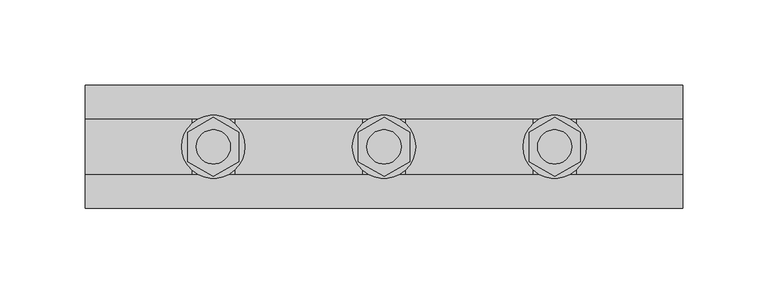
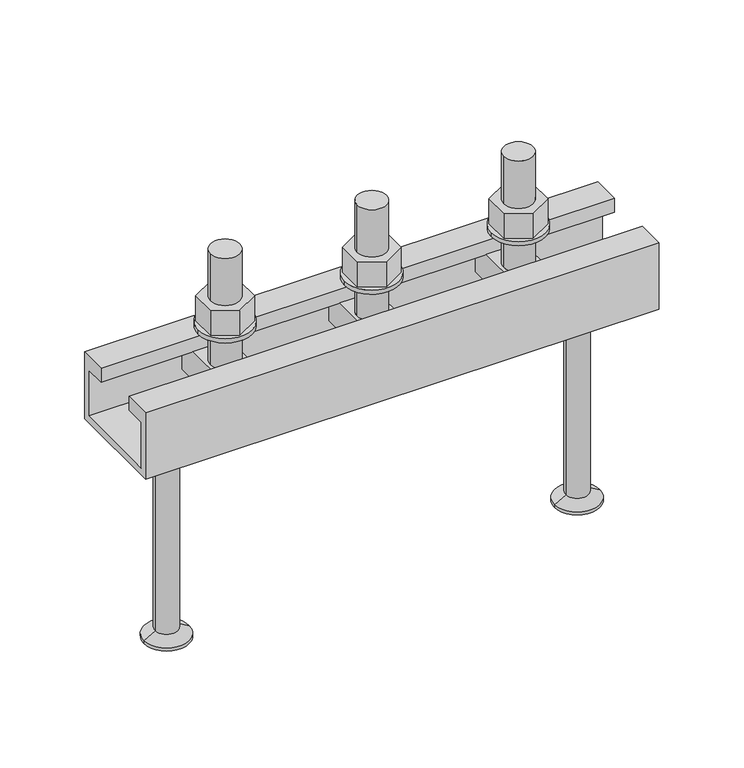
"""IFC4 building model written with IfcOpenShell, lengths in millimetres: fastener geometry, JTA-W JORDAHL® AnchorChannels : JTA-W L=350 mm."""

from ifc_helpers import new_model, si_unit, point, frame, frame_2d, origin, place, context, project, spatial, polyline, circle_curve, trimmed, segment, composite_curve, outline, extrude, source, transform, mapped, element, save
from ifc_brep_helpers import plane_surface, cylinder_surface, revolved_surface, advanced_brep


def fastener_28f62583(model_context):
    return source(origin(), model_context, "Body", "SolidModel", [
        extrude(outline(polyline([(175.0, 17.3205081), (190.0, 8.660254), (190.0, -8.660254), (175.0, -17.3205081), (160.0, -8.660254), (160.0, 8.660254), (175.0, 17.3205081)]), holes=[composite_curve([segment(trimmed(circle_curve(frame_2d((175.0, 0.0)), 10.0), [point((165.0, 0.0))], [point((185.0, 0.0))], True, "CARTESIAN"), True, "CONTINUOUS"), segment(trimmed(circle_curve(frame_2d((175.0, 0.0)), 10.0), [point((185.0, 0.0))], [point((165.0, 0.0))], True, "CARTESIAN"), True, "CONTINUOUS")], self_intersect=False)]), frame((0.0, 0.0, 18.0), z_axis=(0.0, 0.0, 1.0), x_axis=(1.0, 0.0, 0.0)), (0.0, 0.0, 1.0), 18.0),
        extrude(outline(composite_curve([segment(trimmed(circle_curve(frame_2d((175.0, 0.0)), 18.5), [point((156.5, 0.0))], [point((193.5, 0.0))], False, "CARTESIAN"), True, "CONTINUOUS"), segment(trimmed(circle_curve(frame_2d((175.0, 0.0)), 18.5), [point((193.5, 0.0))], [point((156.5, 0.0))], False, "CARTESIAN"), True, "CONTINUOUS")], self_intersect=False), holes=[composite_curve([segment(trimmed(circle_curve(frame_2d((175.0, 0.0)), 10.5), [point((164.5, 0.0))], [point((185.5, 0.0))], True, "CARTESIAN"), True, "CONTINUOUS"), segment(trimmed(circle_curve(frame_2d((175.0, 0.0)), 10.5), [point((185.5, 0.0))], [point((164.5, 0.0))], True, "CARTESIAN"), True, "CONTINUOUS")], self_intersect=False)]), frame((0.0, 0.0, 15.0), z_axis=(0.0, 0.0, 1.0), x_axis=(1.0, 0.0, 0.0)), (0.0, 0.0, 1.0), 3.0),
        advanced_brep(
        [(187.5, 29.0, -10.0), (187.5, -29.0, -10.0), (187.5, -29.0, -30.0), (187.5, 29.0, -30.0), (162.5, 29.0, -10.0), (162.5, 29.0, -30.0), (162.5, -29.0, -30.0), (162.5, -29.0, -10.0), (185.0, 0.0, -10.0), (165.0, 0.0, -10.0), (165.0, 0.0, 70.0), (185.0, 0.0, 70.0)],
        [
            (0, 1),
            (1, 2),
            (2, 3),
            (3, 0),
            (4, 5),
            (5, 6),
            (6, 7),
            (7, 4),
            (0, 4),
            (7, 1),
            (8, 9, circle_curve(frame((175.0, 0.0, -10.0), z_axis=(0.0, 0.0, -1.0), x_axis=(1.0, 0.0, 0.0)), 10.0)),
            (9, 8, circle_curve(frame((175.0, 0.0, -10.0), z_axis=(0.0, 0.0, -1.0), x_axis=(1.0, 0.0, 0.0)), 10.0)),
            (6, 2),
            (5, 3),
            (10, 11, circle_curve(frame((175.0, 0.0, 70.0), z_axis=(0.0, 0.0, 1.0), x_axis=(1.0, 0.0, 0.0)), 10.0)),
            (11, 10, circle_curve(frame((175.0, 0.0, 70.0), z_axis=(0.0, 0.0, 1.0), x_axis=(1.0, 0.0, 0.0)), 10.0)),
            (10, 9),
            (8, 11),
        ],
        [
            plane_surface(frame((187.5, -29.0, -10.0), z_axis=(1.0, 0.0, 0.0), x_axis=(0.0, -1.0, 0.0))),
            plane_surface(frame((162.5, -29.0, -10.0), z_axis=(-1.0, 0.0, 0.0), x_axis=(0.0, 1.0, 0.0))),
            plane_surface(frame((187.5, 29.0, -10.0), z_axis=(0.0, 0.0, 1.0), x_axis=(-1.0, 0.0, 0.0))),
            plane_surface(frame((187.5, -29.0, -10.0), z_axis=(0.0, -1.0, 0.0), x_axis=(-1.0, 0.0, 0.0))),
            plane_surface(frame((187.5, -29.0, -30.0), z_axis=(0.0, 0.0, -1.0), x_axis=(-1.0, 0.0, 0.0))),
            plane_surface(frame((187.5, 29.0, -30.0), z_axis=(0.0, 1.0, 0.0), x_axis=(-1.0, 0.0, 0.0))),
            plane_surface(frame((185.0, 0.0, 70.0), z_axis=(0.0, 0.0, 1.0), x_axis=(0.0, 1.0, 0.0))),
            cylinder_surface(frame((175.0, 0.0, -10.0), z_axis=(0.0, 0.0, 1.0), x_axis=(1.0, 0.0, 0.0)), 10.0),
        ],
        [
            (0, [[1, 2, 3, 4]]),
            (1, [[5, 6, 7, 8]]),
            (2, [[-1, 9, -8, 10], [11, 12]]),
            (3, [[-2, -10, -7, 13]]),
            (4, [[-3, -13, -6, 14]]),
            (5, [[-4, -14, -5, -9]]),
            (6, [[15, 16]]),
            (7, [[-15, 17, -11, 18]]),
            (7, [[-16, -18, -12, -17]]),
        ],
    ),
        extrude(outline(polyline([(275.0, 17.3205081), (290.0, 8.660254), (290.0, -8.660254), (275.0, -17.3205081), (260.0, -8.660254), (260.0, 8.660254), (275.0, 17.3205081)]), holes=[composite_curve([segment(trimmed(circle_curve(frame_2d((275.0, 0.0)), 10.0), [point((265.0, 0.0))], [point((285.0, 0.0))], True, "CARTESIAN"), True, "CONTINUOUS"), segment(trimmed(circle_curve(frame_2d((275.0, 0.0)), 10.0), [point((285.0, 0.0))], [point((265.0, 0.0))], True, "CARTESIAN"), True, "CONTINUOUS")], self_intersect=False)]), frame((0.0, 0.0, 18.0), z_axis=(0.0, 0.0, 1.0), x_axis=(1.0, 0.0, 0.0)), (0.0, 0.0, 1.0), 18.0),
        extrude(outline(composite_curve([segment(trimmed(circle_curve(frame_2d((275.0, 0.0)), 18.5), [point((256.5, 0.0))], [point((293.5, 0.0))], False, "CARTESIAN"), True, "CONTINUOUS"), segment(trimmed(circle_curve(frame_2d((275.0, 0.0)), 18.5), [point((293.5, 0.0))], [point((256.5, 0.0))], False, "CARTESIAN"), True, "CONTINUOUS")], self_intersect=False), holes=[composite_curve([segment(trimmed(circle_curve(frame_2d((275.0, 0.0)), 10.5), [point((264.5, 0.0))], [point((285.5, 0.0))], True, "CARTESIAN"), True, "CONTINUOUS"), segment(trimmed(circle_curve(frame_2d((275.0, 0.0)), 10.5), [point((285.5, 0.0))], [point((264.5, 0.0))], True, "CARTESIAN"), True, "CONTINUOUS")], self_intersect=False)]), frame((0.0, 0.0, 15.0), z_axis=(0.0, 0.0, 1.0), x_axis=(1.0, 0.0, 0.0)), (0.0, 0.0, 1.0), 3.0),
        extrude(outline(polyline([(75.0, 17.3205081), (90.0, 8.660254), (90.0, -8.660254), (75.0, -17.3205081), (60.0, -8.660254), (60.0, 8.660254), (75.0, 17.3205081)]), holes=[composite_curve([segment(trimmed(circle_curve(frame_2d((75.0, 0.0)), 10.0), [point((65.0, 0.0))], [point((85.0, 0.0))], True, "CARTESIAN"), True, "CONTINUOUS"), segment(trimmed(circle_curve(frame_2d((75.0, 0.0)), 10.0), [point((85.0, 0.0))], [point((65.0, 0.0))], True, "CARTESIAN"), True, "CONTINUOUS")], self_intersect=False)]), frame((0.0, 0.0, 18.0), z_axis=(0.0, 0.0, 1.0), x_axis=(1.0, 0.0, 0.0)), (0.0, 0.0, 1.0), 18.0),
        extrude(outline(composite_curve([segment(trimmed(circle_curve(frame_2d((75.0, 0.0)), 18.5), [point((56.5, 0.0))], [point((93.5, 0.0))], False, "CARTESIAN"), True, "CONTINUOUS"), segment(trimmed(circle_curve(frame_2d((75.0, 0.0)), 18.5), [point((93.5, 0.0))], [point((56.5, 0.0))], False, "CARTESIAN"), True, "CONTINUOUS")], self_intersect=False), holes=[composite_curve([segment(trimmed(circle_curve(frame_2d((75.0, 0.0)), 10.5), [point((64.5, 0.0))], [point((85.5, 0.0))], True, "CARTESIAN"), True, "CONTINUOUS"), segment(trimmed(circle_curve(frame_2d((75.0, 0.0)), 10.5), [point((85.5, 0.0))], [point((64.5, 0.0))], True, "CARTESIAN"), True, "CONTINUOUS")], self_intersect=False)]), frame((0.0, 0.0, 15.0), z_axis=(0.0, 0.0, 1.0), x_axis=(1.0, 0.0, 0.0)), (0.0, 0.0, 1.0), 3.0),
        advanced_brep(
        [(287.5, 29.0, -10.0), (287.5, -29.0, -10.0), (287.5, -29.0, -30.0), (287.5, 29.0, -30.0), (262.5, 29.0, -10.0), (262.5, 29.0, -30.0), (262.5, -29.0, -30.0), (262.5, -29.0, -10.0), (285.0, 0.0, -10.0), (265.0, 0.0, -10.0), (265.0, 0.0, 70.0), (285.0, 0.0, 70.0)],
        [
            (0, 1),
            (1, 2),
            (2, 3),
            (3, 0),
            (4, 5),
            (5, 6),
            (6, 7),
            (7, 4),
            (0, 4),
            (7, 1),
            (8, 9, circle_curve(frame((275.0, 0.0, -10.0), z_axis=(0.0, 0.0, -1.0), x_axis=(1.0, 0.0, 0.0)), 10.0)),
            (9, 8, circle_curve(frame((275.0, 0.0, -10.0), z_axis=(0.0, 0.0, -1.0), x_axis=(1.0, 0.0, 0.0)), 10.0)),
            (6, 2),
            (5, 3),
            (10, 11, circle_curve(frame((275.0, 0.0, 70.0), z_axis=(0.0, 0.0, 1.0), x_axis=(1.0, 0.0, 0.0)), 10.0)),
            (11, 10, circle_curve(frame((275.0, 0.0, 70.0), z_axis=(0.0, 0.0, 1.0), x_axis=(1.0, 0.0, 0.0)), 10.0)),
            (10, 9),
            (8, 11),
        ],
        [
            plane_surface(frame((287.5, -29.0, -10.0), z_axis=(1.0, 0.0, 0.0), x_axis=(0.0, -1.0, 0.0))),
            plane_surface(frame((262.5, -29.0, -10.0), z_axis=(-1.0, 0.0, 0.0), x_axis=(0.0, 1.0, 0.0))),
            plane_surface(frame((287.5, 29.0, -10.0), z_axis=(0.0, 0.0, 1.0), x_axis=(-1.0, 0.0, 0.0))),
            plane_surface(frame((287.5, -29.0, -10.0), z_axis=(0.0, -1.0, 0.0), x_axis=(-1.0, 0.0, 0.0))),
            plane_surface(frame((287.5, -29.0, -30.0), z_axis=(0.0, 0.0, -1.0), x_axis=(-1.0, 0.0, 0.0))),
            plane_surface(frame((287.5, 29.0, -30.0), z_axis=(0.0, 1.0, 0.0), x_axis=(-1.0, 0.0, 0.0))),
            plane_surface(frame((285.0, 0.0, 70.0), z_axis=(0.0, 0.0, 1.0), x_axis=(0.0, 1.0, 0.0))),
            cylinder_surface(frame((275.0, 0.0, -10.0), z_axis=(0.0, 0.0, 1.0), x_axis=(1.0, 0.0, 0.0)), 10.0),
        ],
        [
            (0, [[1, 2, 3, 4]]),
            (1, [[5, 6, 7, 8]]),
            (2, [[-1, 9, -8, 10], [11, 12]]),
            (3, [[-2, -10, -7, 13]]),
            (4, [[-3, -13, -6, 14]]),
            (5, [[-4, -14, -5, -9]]),
            (6, [[15, 16]]),
            (7, [[-15, 17, -11, 18]]),
            (7, [[-16, -18, -12, -17]]),
        ],
    ),
        advanced_brep(
        [(87.5, 29.0, -10.0), (87.5, -29.0, -10.0), (87.5, -29.0, -30.0), (87.5, 29.0, -30.0), (62.5, 29.0, -10.0), (62.5, 29.0, -30.0), (62.5, -29.0, -30.0), (62.5, -29.0, -10.0), (85.0, 0.0, -10.0), (65.0, 0.0, -10.0), (65.0, 0.0, 70.0), (85.0, 0.0, 70.0)],
        [
            (0, 1),
            (1, 2),
            (2, 3),
            (3, 0),
            (4, 5),
            (5, 6),
            (6, 7),
            (7, 4),
            (0, 4),
            (7, 1),
            (8, 9, circle_curve(frame((75.0, 0.0, -10.0), z_axis=(0.0, 0.0, -1.0), x_axis=(1.0, 0.0, 0.0)), 10.0)),
            (9, 8, circle_curve(frame((75.0, 0.0, -10.0), z_axis=(0.0, 0.0, -1.0), x_axis=(1.0, 0.0, 0.0)), 10.0)),
            (6, 2),
            (5, 3),
            (10, 11, circle_curve(frame((75.0, 0.0, 70.0), z_axis=(0.0, 0.0, 1.0), x_axis=(1.0, 0.0, 0.0)), 10.0)),
            (11, 10, circle_curve(frame((75.0, 0.0, 70.0), z_axis=(0.0, 0.0, 1.0), x_axis=(1.0, 0.0, 0.0)), 10.0)),
            (10, 9),
            (8, 11),
        ],
        [
            plane_surface(frame((87.5, -29.0, -10.0), z_axis=(1.0, 0.0, 0.0), x_axis=(0.0, -1.0, 0.0))),
            plane_surface(frame((62.5, -29.0, -10.0), z_axis=(-1.0, 0.0, 0.0), x_axis=(0.0, 1.0, 0.0))),
            plane_surface(frame((87.5, 29.0, -10.0), z_axis=(0.0, 0.0, 1.0), x_axis=(-1.0, 0.0, 0.0))),
            plane_surface(frame((87.5, -29.0, -10.0), z_axis=(0.0, -1.0, 0.0), x_axis=(-1.0, 0.0, 0.0))),
            plane_surface(frame((87.5, -29.0, -30.0), z_axis=(0.0, 0.0, -1.0), x_axis=(-1.0, 0.0, 0.0))),
            plane_surface(frame((87.5, 29.0, -30.0), z_axis=(0.0, 1.0, 0.0), x_axis=(-1.0, 0.0, 0.0))),
            plane_surface(frame((85.0, 0.0, 70.0), z_axis=(0.0, 0.0, 1.0), x_axis=(0.0, 1.0, 0.0))),
            cylinder_surface(frame((75.0, 0.0, -10.0), z_axis=(0.0, 0.0, 1.0), x_axis=(1.0, 0.0, 0.0)), 10.0),
        ],
        [
            (0, [[1, 2, 3, 4]]),
            (1, [[5, 6, 7, 8]]),
            (2, [[-1, 9, -8, 10], [11, 12]]),
            (3, [[-2, -10, -7, 13]]),
            (4, [[-3, -13, -6, 14]]),
            (5, [[-4, -14, -5, -9]]),
            (6, [[15, 16]]),
            (7, [[-15, 17, -11, 18]]),
            (7, [[-16, -18, -12, -17]]),
        ],
    ),
        advanced_brep(
        [(315.0, 0.0, -48.0), (338.0, 0.0, -48.0), (292.0, 0.0, -48.0), (299.5, 0.0, -195.0), (330.5, 0.0, -195.0), (315.0, 0.0, -195.0), (299.5, 0.0, -193.0), (330.5, 0.0, -193.0), (307.2, 0.0, -188.5544029), (322.8, 0.0, -188.5544029), (307.2, 0.0, -52.0), (322.8, 0.0, -52.0)],
        [
            (0, 1),
            (1, 2, circle_curve(frame((315.0, 0.0, -48.0), z_axis=(0.0, 0.0, 1.0), x_axis=(1.0, 0.0, 0.0)), 23.0)),
            (2, 0),
            (2, 1, circle_curve(frame((315.0, 0.0, -48.0), z_axis=(0.0, 0.0, 1.0), x_axis=(1.0, 0.0, 0.0)), 23.0)),
            (3, 4, circle_curve(frame((315.0, 0.0, -195.0), z_axis=(0.0, 0.0, -1.0), x_axis=(1.0, 0.0, 0.0)), 15.5)),
            (4, 5),
            (5, 3),
            (4, 3, circle_curve(frame((315.0, 0.0, -195.0), z_axis=(0.0, 0.0, -1.0), x_axis=(1.0, 0.0, 0.0)), 15.5)),
            (6, 7, circle_curve(frame((315.0, 0.0, -193.0), z_axis=(0.0, 0.0, -1.0), x_axis=(1.0, 0.0, 0.0)), 15.5)),
            (7, 4),
            (3, 6),
            (7, 6, circle_curve(frame((315.0, 0.0, -193.0), z_axis=(0.0, 0.0, -1.0), x_axis=(1.0, 0.0, 0.0)), 15.5)),
            (8, 9, circle_curve(frame((315.0, 0.0, -188.5544029), z_axis=(0.0, 0.0, -1.0), x_axis=(1.0, 0.0, 0.0)), 7.8)),
            (9, 7),
            (6, 8),
            (9, 8, circle_curve(frame((315.0, 0.0, -188.5544029), z_axis=(0.0, 0.0, -1.0), x_axis=(1.0, 0.0, 0.0)), 7.8)),
            (10, 11, circle_curve(frame((315.0, 0.0, -52.0), z_axis=(0.0, 0.0, -1.0), x_axis=(1.0, 0.0, 0.0)), 7.8)),
            (11, 9),
            (8, 10),
            (11, 10, circle_curve(frame((315.0, 0.0, -52.0), z_axis=(0.0, 0.0, -1.0), x_axis=(1.0, 0.0, 0.0)), 7.8)),
            (1, 11),
            (10, 2),
        ],
        [
            plane_surface(frame((315.0, 0.0, -48.0), z_axis=(0.0, 0.0, 1.0), x_axis=(1.0, 0.0, 0.0))),
            plane_surface(frame((315.0, 0.0, -195.0), z_axis=(0.0, 0.0, -1.0), x_axis=(1.0, 0.0, 0.0))),
            cylinder_surface(frame((315.0, 0.0, 2361.3150031), z_axis=(0.0, 0.0, 1.0), x_axis=(1.0, 0.0, 0.0)), 15.5),
            revolved_surface(polyline([(330.5, 0.0, -193.0), (322.8, 0.0, -188.5544029)]), (315.0, 0.0, 2361.3150031), (0.0, 0.0, 1.0)),
            cylinder_surface(frame((315.0, 0.0, 2361.3150031), z_axis=(0.0, 0.0, 1.0), x_axis=(1.0, 0.0, 0.0)), 7.8),
            revolved_surface(polyline([(322.8, 0.0, -52.0), (338.0, 0.0, -48.0)]), (315.0, 0.0, 2361.3150031), (0.0, 0.0, 1.0)),
        ],
        [
            (0, [[1, 2, 3]]),
            (0, [[-3, 4, -1]]),
            (1, [[5, 6, 7]]),
            (1, [[8, -7, -6]]),
            (2, [[9, 10, -5, 11]]),
            (2, [[12, -11, -8, -10]]),
            (3, [[13, 14, -9, 15]]),
            (3, [[16, -15, -12, -14]]),
            (4, [[17, 18, -13, 19]]),
            (4, [[20, -19, -16, -18]]),
            (5, [[-2, 21, -17, 22]]),
            (5, [[-4, -22, -20, -21]]),
        ],
    ),
        advanced_brep(
        [(35.0, 0.0, -48.0), (58.0, 0.0, -48.0), (12.0, 0.0, -48.0), (19.5, 0.0, -195.0), (50.5, 0.0, -195.0), (35.0, 0.0, -195.0), (19.5, 0.0, -193.0), (50.5, 0.0, -193.0), (27.2, 0.0, -188.5544029), (42.8, 0.0, -188.5544029), (27.2, 0.0, -52.0), (42.8, 0.0, -52.0)],
        [
            (0, 1),
            (1, 2, circle_curve(frame((35.0, 0.0, -48.0), z_axis=(0.0, 0.0, 1.0), x_axis=(1.0, 0.0, 0.0)), 23.0)),
            (2, 0),
            (2, 1, circle_curve(frame((35.0, 0.0, -48.0), z_axis=(0.0, 0.0, 1.0), x_axis=(1.0, 0.0, 0.0)), 23.0)),
            (3, 4, circle_curve(frame((35.0, 0.0, -195.0), z_axis=(0.0, 0.0, -1.0), x_axis=(1.0, 0.0, 0.0)), 15.5)),
            (4, 5),
            (5, 3),
            (4, 3, circle_curve(frame((35.0, 0.0, -195.0), z_axis=(0.0, 0.0, -1.0), x_axis=(1.0, 0.0, 0.0)), 15.5)),
            (6, 7, circle_curve(frame((35.0, 0.0, -193.0), z_axis=(0.0, 0.0, -1.0), x_axis=(1.0, 0.0, 0.0)), 15.5)),
            (7, 4),
            (3, 6),
            (7, 6, circle_curve(frame((35.0, 0.0, -193.0), z_axis=(0.0, 0.0, -1.0), x_axis=(1.0, 0.0, 0.0)), 15.5)),
            (8, 9, circle_curve(frame((35.0, 0.0, -188.5544029), z_axis=(0.0, 0.0, -1.0), x_axis=(1.0, 0.0, 0.0)), 7.8)),
            (9, 7),
            (6, 8),
            (9, 8, circle_curve(frame((35.0, 0.0, -188.5544029), z_axis=(0.0, 0.0, -1.0), x_axis=(1.0, 0.0, 0.0)), 7.8)),
            (10, 11, circle_curve(frame((35.0, 0.0, -52.0), z_axis=(0.0, 0.0, -1.0), x_axis=(1.0, 0.0, 0.0)), 7.8)),
            (11, 9),
            (8, 10),
            (11, 10, circle_curve(frame((35.0, 0.0, -52.0), z_axis=(0.0, 0.0, -1.0), x_axis=(1.0, 0.0, 0.0)), 7.8)),
            (1, 11),
            (10, 2),
        ],
        [
            plane_surface(frame((35.0, 0.0, -48.0), z_axis=(0.0, 0.0, 1.0), x_axis=(1.0, 0.0, 0.0))),
            plane_surface(frame((35.0, 0.0, -195.0), z_axis=(0.0, 0.0, -1.0), x_axis=(1.0, 0.0, 0.0))),
            cylinder_surface(frame((35.0, 0.0, 2361.3150031), z_axis=(0.0, 0.0, 1.0), x_axis=(1.0, 0.0, 0.0)), 15.5),
            revolved_surface(polyline([(50.5, 0.0, -193.0), (42.8, 0.0, -188.5544029)]), (35.0, 0.0, 2361.3150031), (0.0, 0.0, 1.0)),
            cylinder_surface(frame((35.0, 0.0, 2361.3150031), z_axis=(0.0, 0.0, 1.0), x_axis=(1.0, 0.0, 0.0)), 7.8),
            revolved_surface(polyline([(42.8, 0.0, -52.0), (58.0, 0.0, -48.0)]), (35.0, 0.0, 2361.3150031), (0.0, 0.0, 1.0)),
        ],
        [
            (0, [[1, 2, 3]]),
            (0, [[-3, 4, -1]]),
            (1, [[5, 6, 7]]),
            (1, [[8, -7, -6]]),
            (2, [[9, 10, -5, 11]]),
            (2, [[12, -11, -8, -10]]),
            (3, [[13, 14, -9, 15]]),
            (3, [[16, -15, -12, -14]]),
            (4, [[17, 18, -13, 19]]),
            (4, [[20, -19, -16, -18]]),
            (5, [[-2, 21, -17, 22]]),
            (5, [[-4, -22, -20, -21]]),
        ],
    ),
        extrude(outline(polyline([(36.0, 0.0), (36.0, -48.0), (-36.0, -48.0), (-36.0, 0.0), (-16.5, 0.0), (-16.5, -10.0), (-31.0, -10.0), (-31.0, -43.0), (31.0, -43.0), (31.0, -10.0), (16.5, -10.0), (16.5, 0.0), (36.0, 0.0)])), frame((0.0, 0.0, 0.0), z_axis=(1.0, 0.0, 0.0), x_axis=(0.0, 1.0, 0.0)), (0.0, 0.0, 1.0), 350.0),
    ])


if __name__ == "__main__":
    model = new_model("IFC4")
    model_context = context("Model", 3, world=origin())
    ifc_project = project(units=[si_unit("LENGTHUNIT", "METRE", prefix="MILLI")], contexts=[model_context])
    site = spatial("IfcSite", under=ifc_project)
    building = spatial("IfcBuilding", under=site)
    placement = place(None, origin())
    fastener_shape = fastener_28f62583(model_context)
    element("IfcFastener", 1, ObjectType="JTA-W JORDAHL® AnchorChannels : JTA-W L=350 mm", at=placement, inside=building, context=model_context, shape_type="MappedRepresentation", body=[
        mapped(fastener_shape, transform((0.0, 0.0, 0.0), x_axis=(1.0, 0.0, 0.0), y_axis=(0.0, 1.0, 0.0), z_axis=(0.0, 0.0, 1.0))),
    ])
    save(model, "model.ifc")
